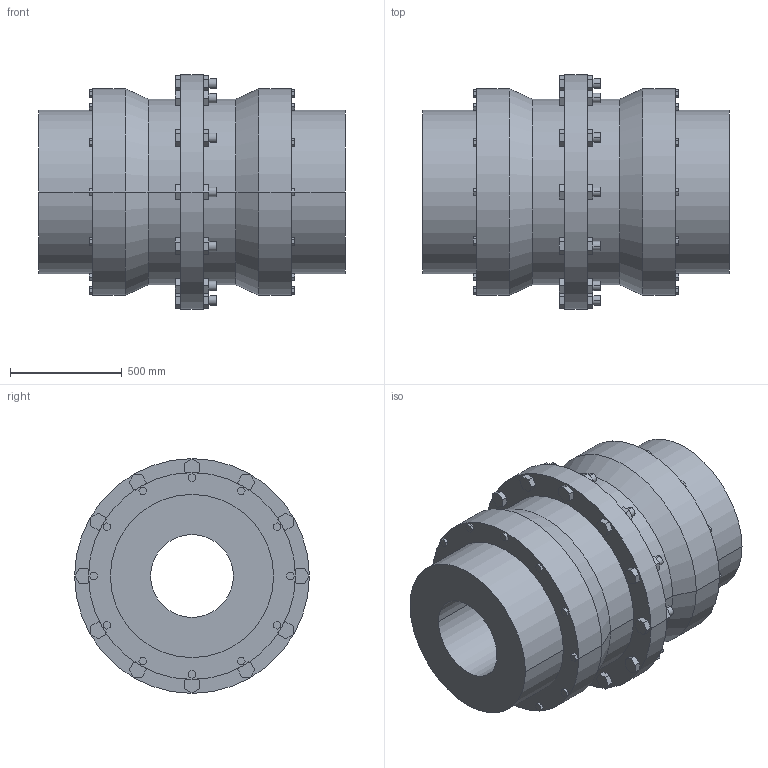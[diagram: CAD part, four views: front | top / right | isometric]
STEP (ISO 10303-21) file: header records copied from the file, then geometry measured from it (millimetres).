
FILE_DESCRIPTION((''),'2;1');
FILE_NAME('A19717100-0_ASM','2019-05-23T',('AB_Roschiwal'),('RENK AG'),'PRO/ENGINEER BY PARAMETRIC TECHNOLOGY CORPORATION, 2015440','PRO/ENGINEER BY PARAMETRIC TECHNOLOGY CORPORATION, 2015440','');
FILE_SCHEMA(('CONFIG_CONTROL_DESIGN'));
Length unit declared in the file: millimetre
Products named in the file (3): SBK450_GEHAEUSE; SBK450_NABE; A19717100-0_ASM
Assembly tree (3 placements, depth 2):
  A19717100-0_ASM
    SBK450_GEHAEUSE
    SBK450_NABE  x2
Bounding box: 1370 x 1050 x 1050 mm (x, y, z)
Volume: 482429299.6 mm3; surface area: 10728587.9 mm2
Topology: 3 solids, 3 shells, 422 faces, 1036 edges, 688 vertices
Faces by surface type: plane 362, cylinder 56, cone 4
Entity records: 12052 total; most frequent: CARTESIAN_POINT 2100, ORIENTED_EDGE 2024, DIRECTION 1940, EDGE_CURVE 1012, VECTOR 916, LINE 916, VERTEX_POINT 672, AXIS2_PLACEMENT_3D 512
